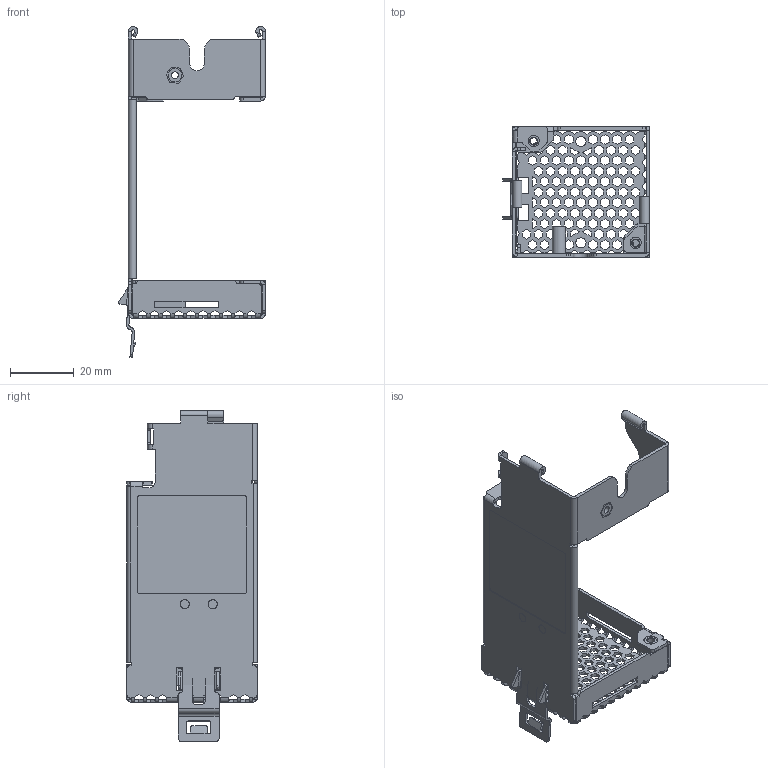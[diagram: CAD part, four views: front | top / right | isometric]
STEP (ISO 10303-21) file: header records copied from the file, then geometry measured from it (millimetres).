
FILE_DESCRIPTION((''),'2;1');
FILE_NAME('S:\Mechanic\NEPTUNE\HELP FILES\MEC007679_03.stp','2014-06-12T16:59:36',('claudioz'),(''),'Autodesk Inventor 2013','Autodesk Inventor 2013','');
FILE_SCHEMA(('AUTOMOTIVE_DESIGN { 1 0 10303 214 1 1 1 1 }'));
Products named in the file (7): MEC007679_NEPTUNE FAN DRAWER RIV; MEC007680_NEPTUNE FAN DRAWER BRACKET; MEC00XXXX BARRACUDA FAN DRAWER BRT; S0S-440-12; PEM Miniature Self-Clinching Fasteners U,FEX,FEOX - Inch FEOX-440; MEC007704; Flat Countersunk Head Small Solid Rivet with Countersunk Finished Head (Inch) 1/16 x 1/8
Assembly tree (8 placements, depth 3):
  MEC007679_NEPTUNE FAN DRAWER RIV
    MEC007680_NEPTUNE FAN DRAWER BRACKET
      MEC00XXXX BARRACUDA FAN DRAWER BRT
      S0S-440-12
      PEM Miniature Self-Clinching Fasteners U,FEX,FEOX - Inch FEOX-440  x2
    MEC007704
    Flat Countersunk Head Small Solid Rivet with Countersunk Finished Head (Inch) 1/16 x 1/8  x2
Bounding box: 46.08 x 41 x 103.9 mm (x, y, z)
Volume: 7515.2 mm3; surface area: 17906.8 mm2
Topology: 7 solids, 7 shells, 1494 faces, 4248 edges, 2698 vertices
Faces by surface type: plane 1171, cylinder 241, bspline 70, cone 12
Full cylindrical faces by diameter (mm): 1.587 x2, 1.588 x2, 1.7 x2, 2.156 x3, 2.794 x4, 3.2 x2, 3.5 x2, 3.683 x2, 3.8 x1, 3.835 x2, 4.2 x2, 4.343 x2, 4.4 x2, 4.877 x2
Entity records: 48700 total; most frequent: CARTESIAN_POINT 9816, ORIENTED_EDGE 8364, DIRECTION 7358, EDGE_CURVE 4182, VECTOR 3566, LINE 3566, VERTEX_POINT 2674, AXIS2_PLACEMENT_3D 1896
